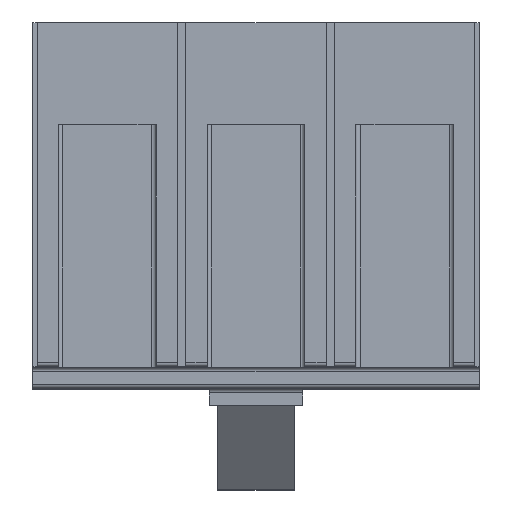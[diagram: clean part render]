
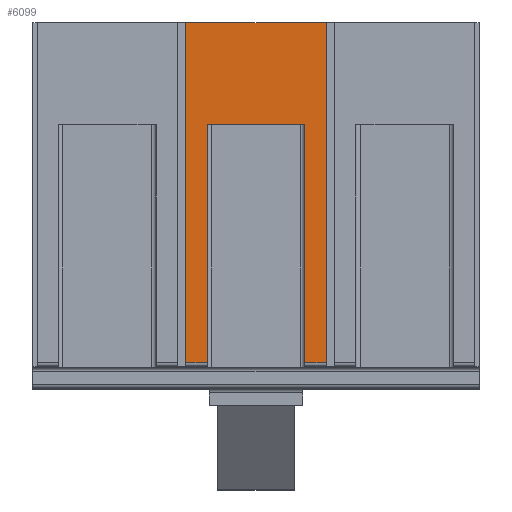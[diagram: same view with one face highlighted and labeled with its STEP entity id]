
A CAD part, top view. The second image highlights one B-rep face of the part: STEP entity #6099.
In plain terms, the highlighted planar face has unit normal (0, 0, 1).
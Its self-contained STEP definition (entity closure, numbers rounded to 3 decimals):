
#680=FACE_OUTER_BOUND('',#1024,.T.);
#1024=EDGE_LOOP('',(#5285,#5286,#5287,#5288,#5289,#5290,#5291,#5292));
#1284=LINE('',#8525,#1945);
#1294=LINE('',#8548,#1955);
#1322=LINE('',#8613,#1983);
#1330=LINE('',#8627,#1991);
#1665=LINE('',#10465,#2326);
#1667=LINE('',#10471,#2328);
#1668=LINE('',#10473,#2329);
#1669=LINE('',#10474,#2330);
#1945=VECTOR('',#6762,80.);
#1955=VECTOR('',#6780,80.);
#1983=VECTOR('',#6832,5.);
#1991=VECTOR('',#6842,33.);
#2326=VECTOR('',#7555,5.);
#2328=VECTOR('',#7561,56.);
#2329=VECTOR('',#7562,23.);
#2330=VECTOR('',#7563,56.);
#2643=VERTEX_POINT('',#8521);
#2645=VERTEX_POINT('',#8524);
#2653=VERTEX_POINT('',#8546);
#2654=VERTEX_POINT('',#8547);
#2679=VERTEX_POINT('',#8611);
#2930=VERTEX_POINT('',#10464);
#2932=VERTEX_POINT('',#10470);
#2933=VERTEX_POINT('',#10472);
#3258=EDGE_CURVE('',#2645,#2643,#1284,.T.);
#3269=EDGE_CURVE('',#2653,#2654,#1294,.T.);
#3302=EDGE_CURVE('',#2679,#2643,#1322,.T.);
#3310=EDGE_CURVE('',#2645,#2654,#1330,.T.);
#3757=EDGE_CURVE('',#2653,#2930,#1665,.T.);
#3760=EDGE_CURVE('',#2679,#2932,#1667,.T.);
#3761=EDGE_CURVE('',#2932,#2933,#1668,.T.);
#3762=EDGE_CURVE('',#2933,#2930,#1669,.T.);
#5285=ORIENTED_EDGE('',*,*,#3269,.T.);
#5286=ORIENTED_EDGE('',*,*,#3310,.F.);
#5287=ORIENTED_EDGE('',*,*,#3258,.T.);
#5288=ORIENTED_EDGE('',*,*,#3302,.F.);
#5289=ORIENTED_EDGE('',*,*,#3760,.T.);
#5290=ORIENTED_EDGE('',*,*,#3761,.T.);
#5291=ORIENTED_EDGE('',*,*,#3762,.T.);
#5292=ORIENTED_EDGE('',*,*,#3757,.F.);
#5794=PLANE('',#6400);
#6099=ADVANCED_FACE('',(#680),#5794,.T.);
#6400=AXIS2_PLACEMENT_3D('',#10469,#7559,#7560);
#6762=DIRECTION('',(0.,-1.,0.));
#6780=DIRECTION('',(0.,1.,0.));
#6832=DIRECTION('',(-1.,0.,0.));
#6842=DIRECTION('',(1.,0.,0.));
#7555=DIRECTION('',(-1.,0.,0.));
#7559=DIRECTION('center_axis',(0.,0.,1.));
#7560=DIRECTION('ref_axis',(0.,-1.,0.));
#7561=DIRECTION('',(0.,1.,0.));
#7562=DIRECTION('',(1.,0.,0.));
#7563=DIRECTION('',(0.,-1.,0.));
#8521=CARTESIAN_POINT('',(46.,90.374,117.017));
#8524=CARTESIAN_POINT('',(46.,170.374,117.017));
#8525=CARTESIAN_POINT('',(46.,129.874,117.017));
#8546=CARTESIAN_POINT('',(79.,90.374,117.017));
#8547=CARTESIAN_POINT('',(79.,170.374,117.017));
#8548=CARTESIAN_POINT('',(79.,129.874,117.017));
#8611=CARTESIAN_POINT('',(51.,90.374,117.017));
#8613=CARTESIAN_POINT('',(10.,90.374,117.017));
#8627=CARTESIAN_POINT('',(10.,170.374,117.017));
#10464=CARTESIAN_POINT('',(74.,90.374,117.017));
#10465=CARTESIAN_POINT('',(10.,90.374,117.017));
#10469=CARTESIAN_POINT('Origin',(10.,170.374,117.017));
#10470=CARTESIAN_POINT('',(51.,146.374,117.017));
#10471=CARTESIAN_POINT('',(51.,129.874,117.017));
#10472=CARTESIAN_POINT('',(74.,146.374,117.017));
#10473=CARTESIAN_POINT('',(36.25,146.374,117.017));
#10474=CARTESIAN_POINT('',(74.,129.874,117.017));
